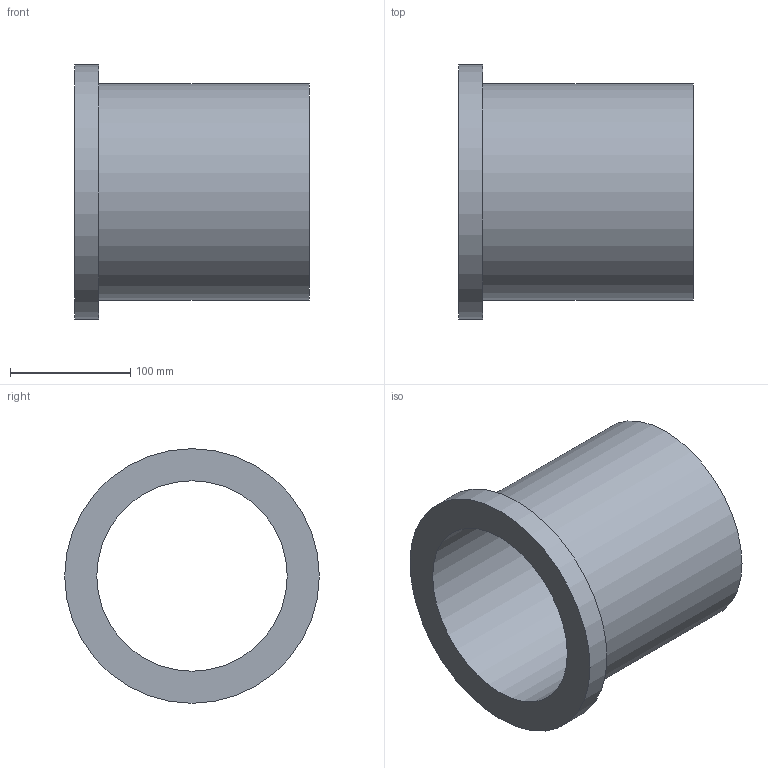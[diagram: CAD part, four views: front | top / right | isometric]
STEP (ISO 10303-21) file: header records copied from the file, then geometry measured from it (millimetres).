
FILE_DESCRIPTION(('Beschreibung'),'1');
FILE_NAME('V:/Ziel/25.80.01.063_SDR_17_PE100_180.STP', '2014-09-15T06:36:23',('Author'), ('Organization'), 'KCM Version 1.1.794.0', 'Kubotek KeyCreator', 'Authorization');
FILE_SCHEMA(('CONFIG_CONTROL_DESIGN'));
Length unit declared in the file: millimetre
Bounding box: 195 x 212 x 212 mm (x, y, z)
Volume: 1306790.9 mm3; surface area: 240526.7 mm2
Topology: 1 solids, 1 shells, 6 faces, 16 edges, 20 vertices
Faces by surface type: cylinder 3, plane 3
Full cylindrical faces by diameter (mm): 158.6 x1, 180 x1, 212 x1
Entity records: 261 total; most frequent: DIRECTION 36, CARTESIAN_POINT 29, ORIENTED_EDGE 18, AXIS2_PLACEMENT_3D 13, VECTOR 10, LINE 10, CC_DESIGN_PERSON_AND_ORGANIZATION_ASSIGNMENT 10, EDGE_CURVE 9
